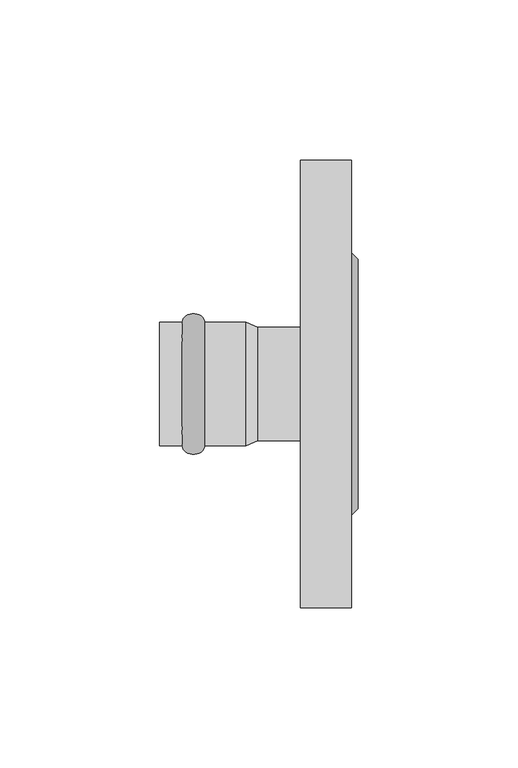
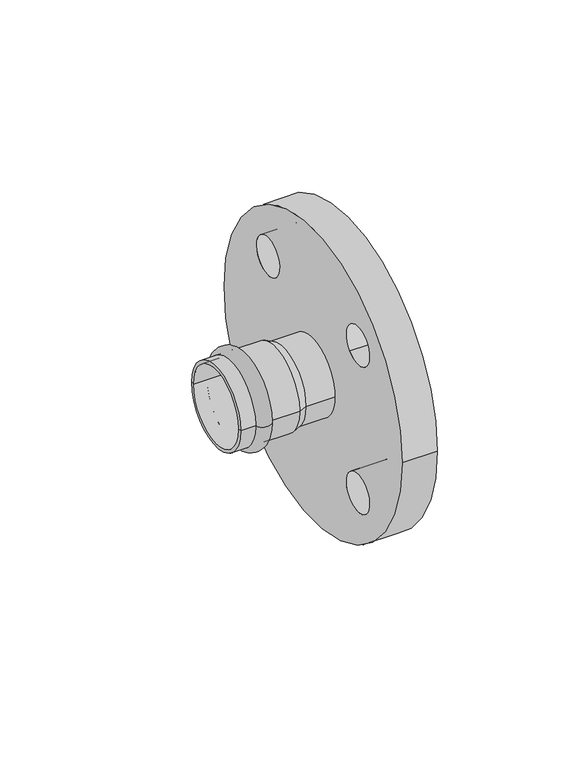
"""IFC4 building model written with IfcOpenShell, lengths in millimetres: pipe fitting geometry, РЕХАУ_Пресс Фланец : 35 x DN32."""

from ifc_helpers import new_model, si_unit, point, frame, frame_2d, origin, origin_2d, place, context, project, spatial, polyline, circle_curve, ellipse_curve, trimmed, segment, composite_curve, outline, extrude, source, transform, mapped, element, save
from ifc_brep_helpers import plane_surface, cylinder_surface, revolved_surface, advanced_brep


def pipe_fitting_3e197c7a(model_context):
    return source(origin(), model_context, "Body", "SolidModel", [
        advanced_brep(
        [(-20.0, 19.25, 0.0), (-20.0, -19.25, 0.0), (-13.0, -19.25, 0.0), (-13.0, 19.25, 0.0)],
        [
            (0, 1, circle_curve(frame((-20.0, 0.0, 0.0), z_axis=(-1.0, 0.0, 0.0), x_axis=(0.0, -1.0, 0.0)), 19.25)),
            (1, 2),
            (2, 3, circle_curve(frame((-13.0, 0.0, 0.0), z_axis=(1.0, 0.0, 0.0), x_axis=(0.0, -1.0, 0.0)), 19.25)),
            (3, 0),
            (1, 0, circle_curve(frame((-20.0, 0.0, 0.0), z_axis=(-1.0, 0.0, 0.0), x_axis=(0.0, -1.0, 0.0)), 19.25)),
            (3, 2, circle_curve(frame((-13.0, 0.0, 0.0), z_axis=(1.0, 0.0, 0.0), x_axis=(0.0, -1.0, 0.0)), 19.25)),
            (2, 1, ellipse_curve(frame((-16.5, -19.25, 0.0), z_axis=(0.0, 0.0, -1.0), x_axis=(-1.0, 0.0, 0.0)), 3.5, 2.75)),
            (0, 3, ellipse_curve(frame((-16.5, 19.25, 0.0), z_axis=(0.0, 0.0, -1.0), x_axis=(-1.0, 0.0, 0.0)), 3.5, 2.75)),
        ],
        [
            revolved_surface(polyline([(-13.0, -19.25, 0.0), (-20.0, -19.25, 0.0)]), (3.0, 0.0, 0.0), (1.0, 0.0, 0.0)),
            revolved_surface(trimmed(ellipse_curve(frame((-16.5, -19.25, 0.0), z_axis=(0.0, 0.0, 1.0), x_axis=(-1.0, 0.0, 0.0)), 3.5, 2.75), [point((-20.0, -19.25, 0.0))], [point((-13.0, -19.25, 0.0))], True, "CARTESIAN"), (3.0, 0.0, 0.0), (1.0, 0.0, 0.0)),
        ],
        [
            (0, [[1, 2, 3, 4]]),
            (0, [[5, -4, 6, -2]]),
            (1, [[-3, 7, -1, 8]]),
            (1, [[-6, -8, -5, -7]]),
        ],
    ),
        advanced_brep(
        [(3.5337785, 17.75, 0.0), (3.5337785, -17.75, 0.0), (0.0, -19.25, 0.0), (0.0, 19.25, 0.0), (-27.0, 17.75, 0.0), (-27.0, -17.75, 0.0), (-27.0, 19.25, 0.0), (-27.0, -19.25, 0.0)],
        [
            (0, 1, circle_curve(frame((3.5337785, 0.0, 0.0), z_axis=(-1.0, 0.0, 0.0), x_axis=(0.0, -1.0, 0.0)), 17.75)),
            (1, 2),
            (2, 3, circle_curve(frame((0.0, 0.0, 0.0), z_axis=(1.0, 0.0, 0.0), x_axis=(0.0, -1.0, 0.0)), 19.25)),
            (3, 0),
            (1, 0, circle_curve(frame((3.5337785, 0.0, 0.0), z_axis=(-1.0, 0.0, 0.0), x_axis=(0.0, -1.0, 0.0)), 17.75)),
            (3, 2, circle_curve(frame((0.0, 0.0, 0.0), z_axis=(1.0, 0.0, 0.0), x_axis=(0.0, -1.0, 0.0)), 19.25)),
            (4, 5, circle_curve(frame((-27.0, 0.0, 0.0), z_axis=(-1.0, 0.0, 0.0), x_axis=(0.0, -1.0, 0.0)), 17.75)),
            (5, 1),
            (0, 4),
            (5, 4, circle_curve(frame((-27.0, 0.0, 0.0), z_axis=(-1.0, 0.0, 0.0), x_axis=(0.0, -1.0, 0.0)), 17.75)),
            (6, 7, circle_curve(frame((-27.0, 0.0, 0.0), z_axis=(-1.0, 0.0, 0.0), x_axis=(0.0, -1.0, 0.0)), 19.25)),
            (7, 5),
            (4, 6),
            (7, 6, circle_curve(frame((-27.0, 0.0, 0.0), z_axis=(-1.0, 0.0, 0.0), x_axis=(0.0, -1.0, 0.0)), 19.25)),
            (2, 7),
            (6, 3),
        ],
        [
            revolved_surface(polyline([(0.0, -19.25, 0.0), (3.5337785, -17.75, 0.0)]), (3.0, 0.0, 0.0), (1.0, 0.0, 0.0)),
            revolved_surface(polyline([(3.5337785, -17.75, 0.0), (-27.0, -17.75, 0.0)]), (3.0, 0.0, 0.0), (1.0, 0.0, 0.0)),
            plane_surface(frame((-27.0, 0.0, 0.0), z_axis=(-1.0, 0.0, 0.0), x_axis=(0.0, -1.0, 0.0))),
            cylinder_surface(frame((3.0, 0.0, 0.0), z_axis=(1.0, 0.0, 0.0), x_axis=(0.0, -1.0, 0.0)), 19.25),
        ],
        [
            (0, [[1, 2, 3, 4]]),
            (0, [[5, -4, 6, -2]]),
            (1, [[7, 8, -1, 9]]),
            (1, [[10, -9, -5, -8]]),
            (2, [[11, 12, -7, 13]]),
            (2, [[14, -13, -10, -12]]),
            (3, [[-3, 15, -11, 16]]),
            (3, [[-6, -16, -14, -15]]),
        ],
    ),
        advanced_brep(
        [(35.0, -39.0, 0.0), (35.0, 39.0, 0.0), (33.0, -41.0, 0.0), (33.0, 41.0, 0.0)],
        [
            (0, 1, circle_curve(frame((35.0, 0.0, 0.0), z_axis=(1.0, 0.0, 0.0), x_axis=(0.0, -1.0, 0.0)), 39.0)),
            (1, 0, circle_curve(frame((35.0, 0.0, 0.0), z_axis=(1.0, 0.0, 0.0), x_axis=(0.0, 1.0, 0.0)), 39.0)),
            (2, 3, circle_curve(frame((33.0, 0.0, 0.0), z_axis=(-1.0, 0.0, 0.0), x_axis=(0.0, 1.0, 0.0)), 41.0)),
            (3, 2, circle_curve(frame((33.0, 0.0, 0.0), z_axis=(-1.0, 0.0, 0.0), x_axis=(0.0, -1.0, 0.0)), 41.0)),
            (3, 1),
            (0, 2),
        ],
        [
            plane_surface(frame((35.0, 0.0, 0.0), z_axis=(1.0, 0.0, 0.0), x_axis=(0.0, 0.0, -1.0))),
            plane_surface(frame((33.0, 0.0, 0.0), z_axis=(-1.0, 0.0, 0.0), x_axis=(0.0, 0.0, -1.0))),
            revolved_surface(polyline([(35.0, -39.0, 0.0), (33.0, -41.0, 0.0)]), (74.0, 0.0, 0.0), (-1.0, 0.0, 0.0)),
            revolved_surface(polyline([(35.0, 39.0, 0.0), (33.0, 41.0, 0.0)]), (74.0, 0.0, 0.0), (-1.0, 0.0, 0.0)),
        ],
        [
            (0, [[1, 2]]),
            (1, [[3, 4]]),
            (2, [[-4, 5, -1, 6]]),
            (3, [[-3, -6, -2, -5]]),
        ],
    ),
        extrude(outline(composite_curve([segment(trimmed(circle_curve(origin_2d(), 70.0), [point((70.0, 0.0))], [point((-70.0, 0.0))], False, "CARTESIAN"), True, "CONTINUOUS"), segment(trimmed(circle_curve(origin_2d(), 70.0), [point((-70.0, 0.0))], [point((70.0, 0.0))], False, "CARTESIAN"), True, "CONTINUOUS")], self_intersect=False), holes=[composite_curve([segment(trimmed(circle_curve(frame_2d((35.3553391, 35.3553391)), 9.0), [point((28.991378, 28.991378))], [point((41.7193001, 41.7193001))], True, "CARTESIAN"), True, "CONTINUOUS"), segment(trimmed(circle_curve(frame_2d((35.3553391, 35.3553391)), 9.0), [point((41.7193001, 41.7193001))], [point((28.991378, 28.991378))], True, "CARTESIAN"), True, "CONTINUOUS")], self_intersect=False), composite_curve([segment(trimmed(circle_curve(frame_2d((35.3553391, -35.3553391)), 9.0), [point((28.991378, -28.991378))], [point((41.7193001, -41.7193001))], True, "CARTESIAN"), True, "CONTINUOUS"), segment(trimmed(circle_curve(frame_2d((35.3553391, -35.3553391)), 9.0), [point((41.7193001, -41.7193001))], [point((28.991378, -28.991378))], True, "CARTESIAN"), True, "CONTINUOUS")], self_intersect=False), composite_curve([segment(trimmed(circle_curve(frame_2d((-35.3553391, -35.3553391)), 9.0), [point((-28.991378, -28.991378))], [point((-41.7193001, -41.7193001))], True, "CARTESIAN"), True, "CONTINUOUS"), segment(trimmed(circle_curve(frame_2d((-35.3553391, -35.3553391)), 9.0), [point((-41.7193001, -41.7193001))], [point((-28.991378, -28.991378))], True, "CARTESIAN"), True, "CONTINUOUS")], self_intersect=False), composite_curve([segment(trimmed(circle_curve(frame_2d((-35.3553391, 35.3553391)), 9.0), [point((-28.991378, 28.991378))], [point((-41.7193001, 41.7193001))], True, "CARTESIAN"), True, "CONTINUOUS"), segment(trimmed(circle_curve(frame_2d((-35.3553391, 35.3553391)), 9.0), [point((-41.7193001, 41.7193001))], [point((-28.991378, 28.991378))], True, "CARTESIAN"), True, "CONTINUOUS")], self_intersect=False)]), frame((17.0, 0.0, 0.0), z_axis=(1.0, 0.0, 0.0), x_axis=(0.0, 1.0, 0.0)), (0.0, 0.0, 1.0), 16.0),
        extrude(outline(composite_curve([segment(trimmed(circle_curve(origin_2d(), 17.75), [point((-17.75, 0.0))], [point((17.75, 0.0))], False, "CARTESIAN"), True, "CONTINUOUS"), segment(trimmed(circle_curve(origin_2d(), 17.75), [point((17.75, 0.0))], [point((-17.75, 0.0))], False, "CARTESIAN"), True, "CONTINUOUS")], self_intersect=False)), frame((0.0, 0.0, 0.0), z_axis=(1.0, 0.0, 0.0), x_axis=(0.0, 1.0, 0.0)), (0.0, 0.0, 1.0), 17.0),
    ])


if __name__ == "__main__":
    model = new_model("IFC4")
    model_context = context("Model", 3, world=origin())
    ifc_project = project(units=[si_unit("LENGTHUNIT", "METRE", prefix="MILLI")], contexts=[model_context])
    site = spatial("IfcSite", under=ifc_project)
    building = spatial("IfcBuilding", under=site)
    placement = place(None, origin())
    pipe_fitting_shape = pipe_fitting_3e197c7a(model_context)
    element("IfcPipeFitting", 1, ObjectType="РЕХАУ_Пресс Фланец : 35 x DN32", at=placement, inside=building, context=model_context, shape_type="MappedRepresentation", body=[
        mapped(pipe_fitting_shape, transform((0.0, 0.0, 0.0), x_axis=(1.0, 0.0, 0.0), y_axis=(0.0, 1.0, 0.0), z_axis=(0.0, 0.0, 1.0))),
    ])
    save(model, "model.ifc")
